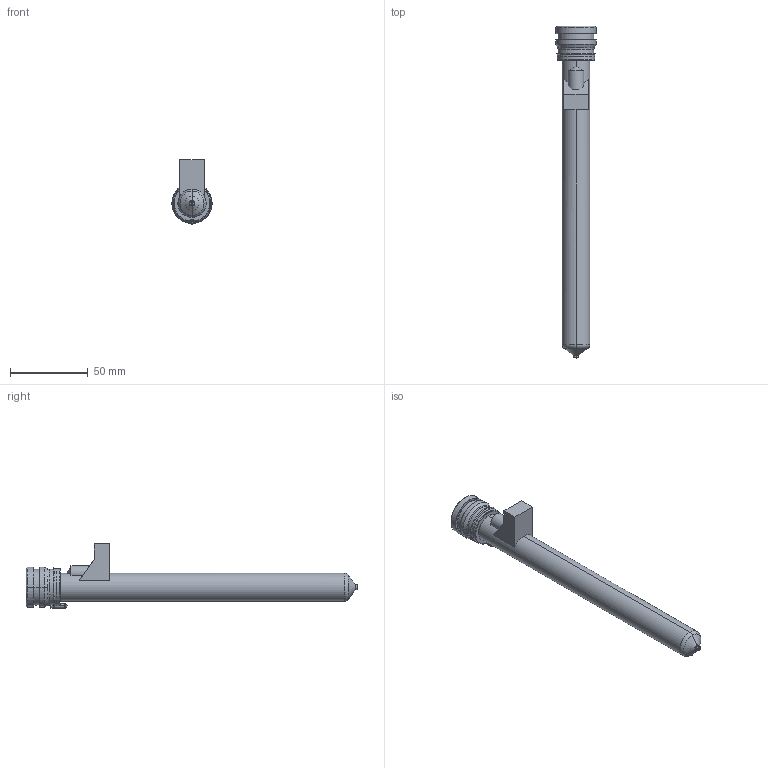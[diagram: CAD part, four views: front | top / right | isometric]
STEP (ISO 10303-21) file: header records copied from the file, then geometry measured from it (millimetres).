
FILE_DESCRIPTION((''),'2;1');
FILE_NAME('MPN-08-24-VP3-196-M','2026-02-05T13:33:37',('UPTIO'),('Thermoplay S.p.A.'),'CREO PARAMETRIC BY PTC INC, 2023494','CREO PARAMETRIC BY PTC INC, 2023494','');
FILE_SCHEMA(('CONFIG_CONTROL_DESIGN','SHAPE_APPEARANCE_LAYERS_GROUPS'));
Length unit declared in the file: millimetre
Products named in the file (1): MPN-08-24-VP3-196-M
Bounding box: 26 x 214.1 x 41.5 mm (x, y, z)
Volume: 39825.9 mm3; surface area: 53651.7 mm2
Topology: 2 solids, 3 shells, 571 faces, 1494 edges, 922 vertices
Faces by surface type: cylinder 178, plane 143, bspline 103, torus 68, cone 66, sphere 7, extrusion 6
Entity records: 30024 total; most frequent: CARTESIAN_POINT 13514, ORIENTED_EDGE 2970, DIRECTION 2631, EDGE_CURVE 1485, AXIS2_PLACEMENT_3D 1029, VERTEX_POINT 922, EDGE_LOOP 601, VECTOR 573
